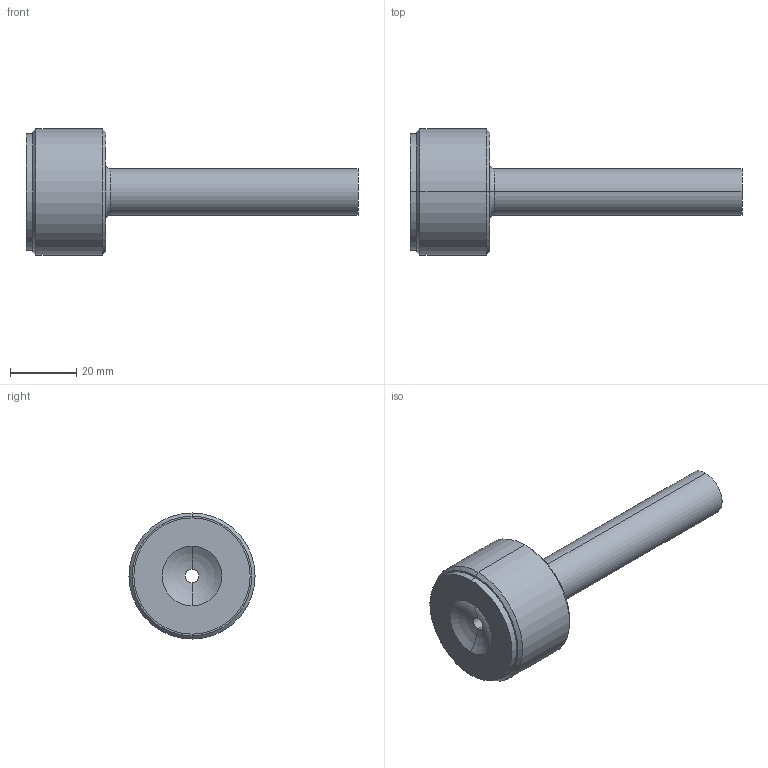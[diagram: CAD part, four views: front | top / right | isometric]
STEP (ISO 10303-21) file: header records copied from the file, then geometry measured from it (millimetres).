
FILE_DESCRIPTION (( 'STEP AP214' ), '1' );
FILE_NAME ('BRB31T-24x100.STEP', '2020-01-30T15:09:08', ( 'August' ), ( '' ), 'SwSTEP 2.0', 'SolidWorks 2018', '' );
FILE_SCHEMA (( 'AUTOMOTIVE_DESIGN' ));
Length unit declared in the file: millimetre
Products named in the file (1): BRB31T-24x100
Bounding box: 100 x 38 x 38 mm (x, y, z)
Volume: 35529.5 mm3; surface area: 9997.5 mm2
Topology: 1 solids, 1 shells, 20 faces, 40 edges, 24 vertices
Faces by surface type: cone 6, cylinder 6, torus 4, plane 4
Entity records: 566 total; most frequent: DIRECTION 110, CARTESIAN_POINT 85, ORIENTED_EDGE 80, AXIS2_PLACEMENT_3D 49, EDGE_CURVE 40, CIRCLE 28, VERTEX_POINT 24, EDGE_LOOP 24
